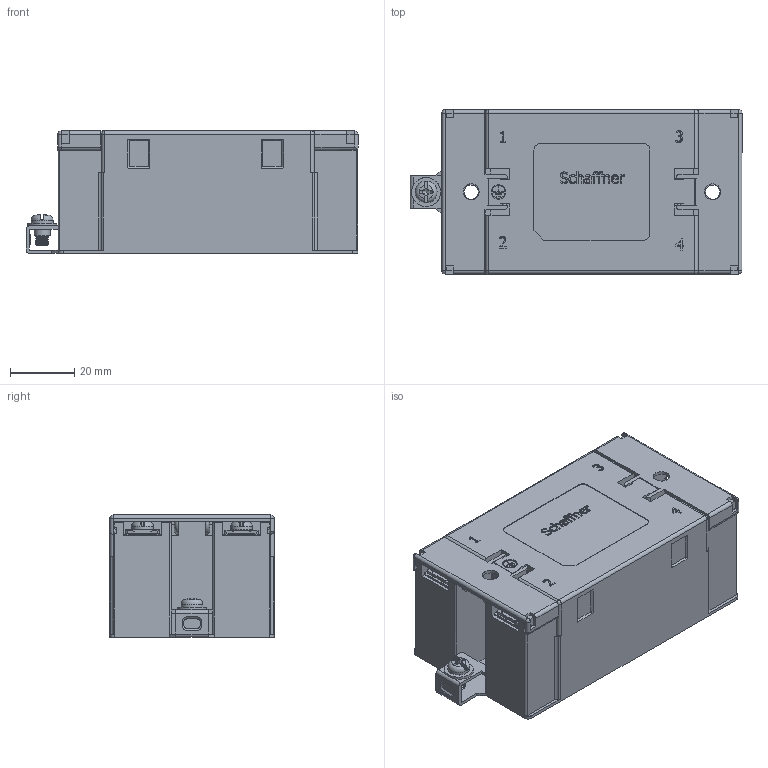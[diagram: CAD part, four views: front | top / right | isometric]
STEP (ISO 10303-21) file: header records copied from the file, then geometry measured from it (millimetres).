
FILE_DESCRIPTION((''),'2;1');
FILE_NAME('K:\Development\Projects\FS24xxx\FS24766 series\FS24766-6-61\70_Realization_Revision\702_MechanicalDesign\3D drawing for FN2450G-20-61.stp','2013-06-13T10:00:07',('Fiona.chen'),(''),'Autodesk Inventor 2010','Autodesk Inventor 2010','');
FILE_SCHEMA(('AUTOMOTIVE_DESIGN { 1 0 10303 214 1 1 1 1 }'));
Length unit declared in the file: millimetre
Products named in the file (1): 3D drawing_包覆面提取_1
Bounding box: 103.12 x 51 x 38.1 mm (x, y, z)
Volume: 132160.7 mm3; surface area: 60942.5 mm2
Topology: 1 solids, 6 shells, 1841 faces, 7944 edges, 5938 vertices
Faces by surface type: plane 941, bspline 443, cylinder 358, torus 44, cone 33, sphere 22
Full cylindrical faces by diameter (mm): 1.4 x2, 2.8 x5, 3.14 x5, 4 x5, 4.28 x1, 4.4 x2, 4.5 x1, 4.6 x4, 5 x3, 5.5 x2, 6.8 x5, 9 x1
Entity records: 100784 total; most frequent: CARTESIAN_POINT 40630, ORIENTED_EDGE 15554, DIRECTION 8262, EDGE_CURVE 7777, VERTEX_POINT 5887, VECTOR 3684, LINE 3684, B_SPLINE_CURVE_WITH_KNOTS 2993
